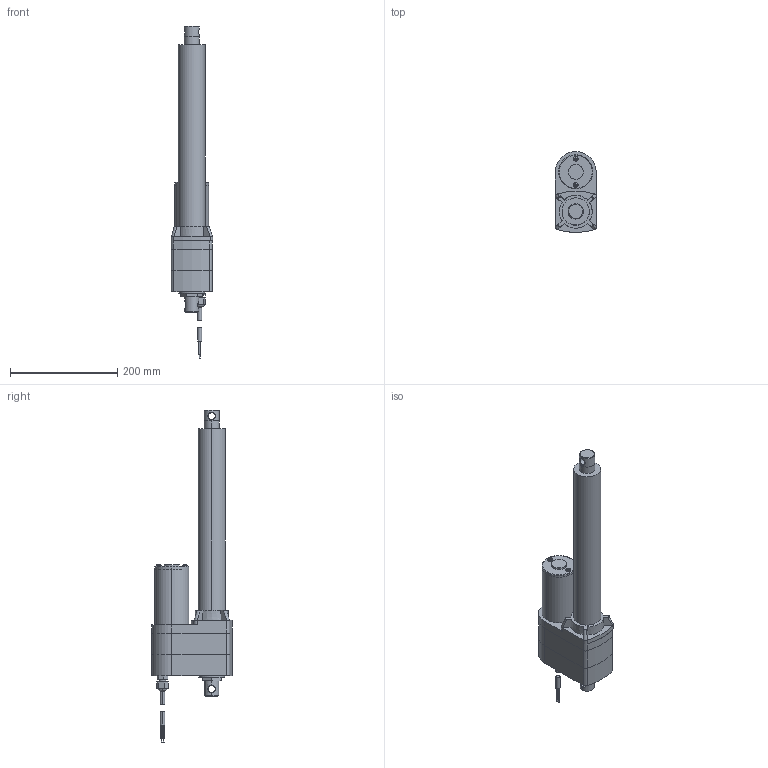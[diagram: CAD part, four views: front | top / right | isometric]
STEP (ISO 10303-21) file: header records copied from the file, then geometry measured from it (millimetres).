
FILE_DESCRIPTION (( 'STEP AP203' ), '1' );
FILE_NAME ('LA5_ACME_12.step', '2021-02-24T15:17:37', ( '' ), ( '' ), 'SwSTEP 2.0', 'SolidWorks 2017', '' );
FILE_SCHEMA (( 'CONFIG_CONTROL_DESIGN' ));
Length unit declared in the file: millimetre
Products named in the file (1): LA5_ACME_12
Bounding box: 77.22 x 151.29 x 620.48 mm (x, y, z)
Volume: 2226637.8 mm3; surface area: 216813.8 mm2
Topology: 14 solids, 14 shells, 315 faces, 680 edges, 422 vertices
Faces by surface type: plane 154, cylinder 101, cone 24, bspline 22, torus 10, sphere 4
Entity records: 10570 total; most frequent: CARTESIAN_POINT 3606, DIRECTION 1477, ORIENTED_EDGE 1360, EDGE_CURVE 680, AXIS2_PLACEMENT_3D 573, VERTEX_POINT 422, EDGE_LOOP 352, VECTOR 331
